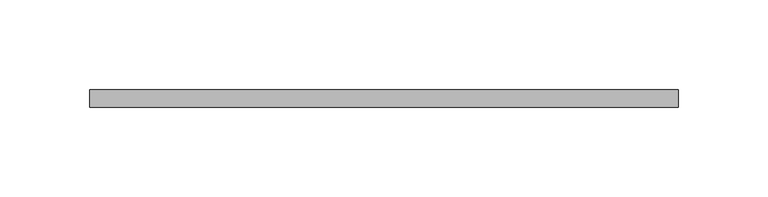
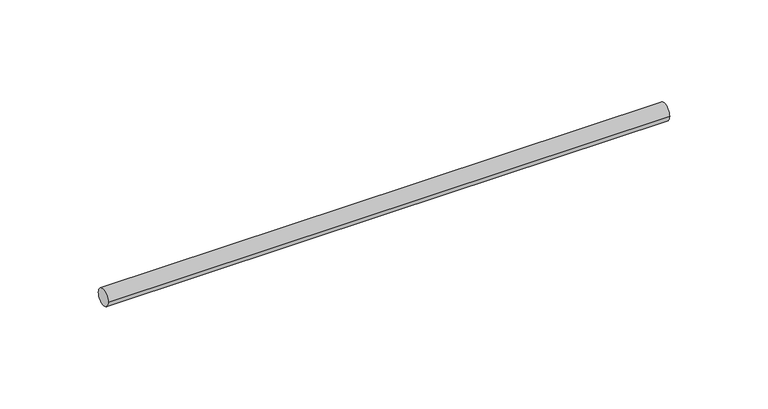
"""IFC4 building model written with IfcOpenShell, lengths in millimetres: valve geometry, Superfix Threaded Rod (used for clamps) : Threaded Rod  Extra  - 1000 mm (used for clamps)."""

from ifc_helpers import new_model, si_unit, point, frame, origin, origin_2d, place, context, project, spatial, circle_curve, trimmed, segment, composite_curve, outline, extrude, source, transform, mapped, element, save


def valve_6bdfe2ac(model_context):
    return source(origin(), model_context, "Body", "SweptSolid", [
        extrude(outline(composite_curve([segment(trimmed(circle_curve(origin_2d(), 5.0), [point((-5.0, 0.0))], [point((5.0, 0.0))], False, "CARTESIAN"), True, "CONTINUOUS"), segment(trimmed(circle_curve(origin_2d(), 5.0), [point((5.0, 0.0))], [point((-5.0, 0.0))], False, "CARTESIAN"), True, "CONTINUOUS")], self_intersect=False)), frame((-10.0, 0.0, 0.0), z_axis=(1.0, 0.0, 0.0), x_axis=(0.0, 1.0, 0.0)), (0.0, 0.0, 1.0), 329.0002332),
    ])


if __name__ == "__main__":
    model = new_model("IFC4")
    model_context = context("Model", 3, world=origin())
    ifc_project = project(units=[si_unit("LENGTHUNIT", "METRE", prefix="MILLI")], contexts=[model_context])
    site = spatial("IfcSite", under=ifc_project)
    building = spatial("IfcBuilding", under=site)
    placement = place(None, origin())
    valve_shape = valve_6bdfe2ac(model_context)
    element("IfcValve", 1, ObjectType="Superfix Threaded Rod (used for clamps) : Threaded Rod  Extra  - 1000 mm (used for clamps)", at=placement, inside=building, context=model_context, shape_type="MappedRepresentation", body=[
        mapped(valve_shape, transform((0.0, 0.0, 0.0), x_axis=(1.0, 0.0, 0.0), y_axis=(0.0, 1.0, 0.0), z_axis=(0.0, 0.0, 1.0))),
    ])
    save(model, "model.ifc")
